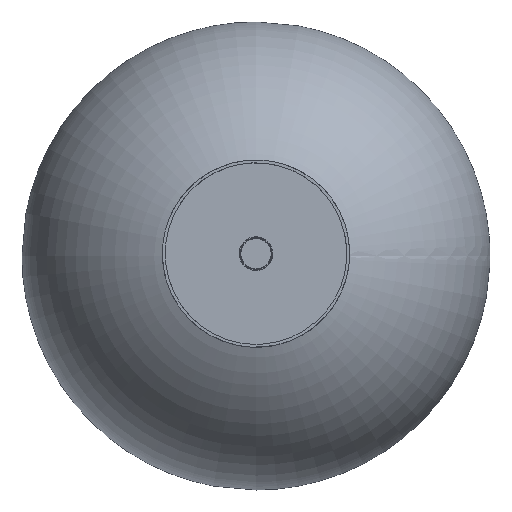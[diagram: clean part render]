
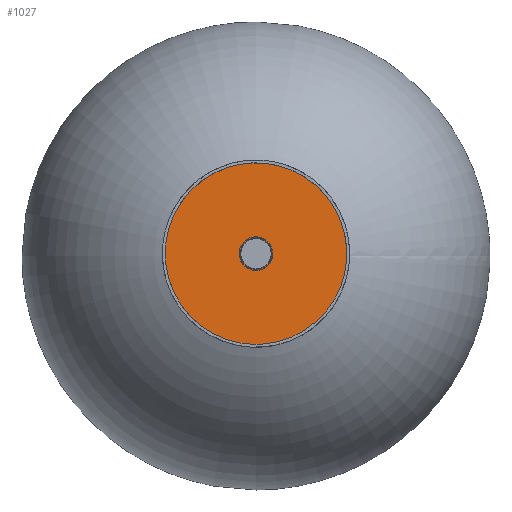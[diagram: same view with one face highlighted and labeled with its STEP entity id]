
A CAD part, top view. The second image highlights one B-rep face of the part: STEP entity #1027.
In plain terms, the highlighted free-form (B-spline) face has degree [2, 1] with [9, 2] control points.
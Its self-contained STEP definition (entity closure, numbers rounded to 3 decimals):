
#569=B_SPLINE_CURVE_WITH_KNOTS('',1,(#50198,#50199),.UNSPECIFIED.,.F.,.F.,
(2,2),(89.9,130.3),.UNSPECIFIED.);
#629=(
BOUNDED_SURFACE()
B_SPLINE_SURFACE(2,1,((#50132,#50133),(#50134,#50135),(#50136,#50137),(#50138,
#50139),(#50140,#50141),(#50142,#50143),(#50144,#50145),(#50146,#50147),
(#50148,#50149)),.UNSPECIFIED.,.T.,.F.,.F.)
B_SPLINE_SURFACE_WITH_KNOTS((3,2,2,2,3),(2,2),(0.,78.54,157.08,
235.619,314.159),(89.9,130.3),
 .UNSPECIFIED.)
GEOMETRIC_REPRESENTATION_ITEM()
RATIONAL_B_SPLINE_SURFACE(((1.,1.),(0.707,0.707),
(1.,1.),(0.707,0.707),(1.,1.),(0.707,
0.707),(1.,1.),(0.707,0.707),(1.,1.)))
REPRESENTATION_ITEM('')
SURFACE()
);
#1027=ADVANCED_FACE('',(#1372),#629,.T.);
#1372=FACE_OUTER_BOUND('',#1754,.T.);
#1754=EDGE_LOOP('',(#3332,#3333,#3334,#3335));
#3332=ORIENTED_EDGE('',*,*,#4193,.F.);
#3333=ORIENTED_EDGE('',*,*,#4198,.T.);
#3334=ORIENTED_EDGE('',*,*,#4193,.T.);
#3335=ORIENTED_EDGE('',*,*,#4199,.F.);
#4193=EDGE_CURVE('',#5037,#5036,#569,.T.);
#4198=EDGE_CURVE('',#5037,#5037,#4509,.T.);
#4199=EDGE_CURVE('',#5036,#5036,#4510,.T.);
#4509=(
BOUNDED_CURVE()
B_SPLINE_CURVE(2,(#50222,#50223,#50224,#50225,#50226,#50227,#50228,#50229,
#50230),.UNSPECIFIED.,.T.,.F.)
B_SPLINE_CURVE_WITH_KNOTS((3,2,2,2,3),(0.,78.54,157.08,
235.619,314.159),.UNSPECIFIED.)
CURVE()
GEOMETRIC_REPRESENTATION_ITEM()
RATIONAL_B_SPLINE_CURVE((1.,0.707,1.,0.707,1.,0.707,
1.,0.707,1.))
REPRESENTATION_ITEM('')
);
#4510=(
BOUNDED_CURVE()
B_SPLINE_CURVE(2,(#50231,#50232,#50233,#50234,#50235,#50236,#50237,#50238,
#50239),.UNSPECIFIED.,.T.,.F.)
B_SPLINE_CURVE_WITH_KNOTS((3,2,2,2,3),(0.,78.54,157.08,
235.619,314.159),.UNSPECIFIED.)
CURVE()
GEOMETRIC_REPRESENTATION_ITEM()
RATIONAL_B_SPLINE_CURVE((1.,0.707,1.,0.707,1.,0.707,
1.,0.707,1.))
REPRESENTATION_ITEM('')
);
#5036=VERTEX_POINT('',#50179);
#5037=VERTEX_POINT('',#50180);
#50132=CARTESIAN_POINT('',(-48.5,0.,-22.5));
#50133=CARTESIAN_POINT('',(-8.1,0.,-22.5));
#50134=CARTESIAN_POINT('',(-48.5,-48.5,-22.5));
#50135=CARTESIAN_POINT('',(-8.1,-8.1,-22.5));
#50136=CARTESIAN_POINT('',(0.,-48.5,-22.5));
#50137=CARTESIAN_POINT('',(0.,-8.1,-22.5));
#50138=CARTESIAN_POINT('',(48.5,-48.5,-22.5));
#50139=CARTESIAN_POINT('',(8.1,-8.1,-22.5));
#50140=CARTESIAN_POINT('',(48.5,0.,-22.5));
#50141=CARTESIAN_POINT('',(8.1,0.,-22.5));
#50142=CARTESIAN_POINT('',(48.5,48.5,-22.5));
#50143=CARTESIAN_POINT('',(8.1,8.1,-22.5));
#50144=CARTESIAN_POINT('',(0.,48.5,-22.5));
#50145=CARTESIAN_POINT('',(0.,8.1,-22.5));
#50146=CARTESIAN_POINT('',(-48.5,48.5,-22.5));
#50147=CARTESIAN_POINT('',(-8.1,8.1,-22.5));
#50148=CARTESIAN_POINT('',(-48.5,0.,-22.5));
#50149=CARTESIAN_POINT('',(-8.1,0.,-22.5));
#50179=CARTESIAN_POINT('',(-8.1,0.,-22.5));
#50180=CARTESIAN_POINT('',(-48.5,0.,-22.5));
#50198=CARTESIAN_POINT('',(-48.5,0.,-22.5));
#50199=CARTESIAN_POINT('',(-8.1,0.,-22.5));
#50222=CARTESIAN_POINT('',(-48.5,0.,-22.5));
#50223=CARTESIAN_POINT('',(-48.5,-48.5,-22.5));
#50224=CARTESIAN_POINT('',(0.,-48.5,-22.5));
#50225=CARTESIAN_POINT('',(48.5,-48.5,-22.5));
#50226=CARTESIAN_POINT('',(48.5,0.,-22.5));
#50227=CARTESIAN_POINT('',(48.5,48.5,-22.5));
#50228=CARTESIAN_POINT('',(0.,48.5,-22.5));
#50229=CARTESIAN_POINT('',(-48.5,48.5,-22.5));
#50230=CARTESIAN_POINT('',(-48.5,0.,-22.5));
#50231=CARTESIAN_POINT('',(-8.1,0.,-22.5));
#50232=CARTESIAN_POINT('',(-8.1,-8.1,-22.5));
#50233=CARTESIAN_POINT('',(0.,-8.1,-22.5));
#50234=CARTESIAN_POINT('',(8.1,-8.1,-22.5));
#50235=CARTESIAN_POINT('',(8.1,0.,-22.5));
#50236=CARTESIAN_POINT('',(8.1,8.1,-22.5));
#50237=CARTESIAN_POINT('',(0.,8.1,-22.5));
#50238=CARTESIAN_POINT('',(-8.1,8.1,-22.5));
#50239=CARTESIAN_POINT('',(-8.1,0.,-22.5));
